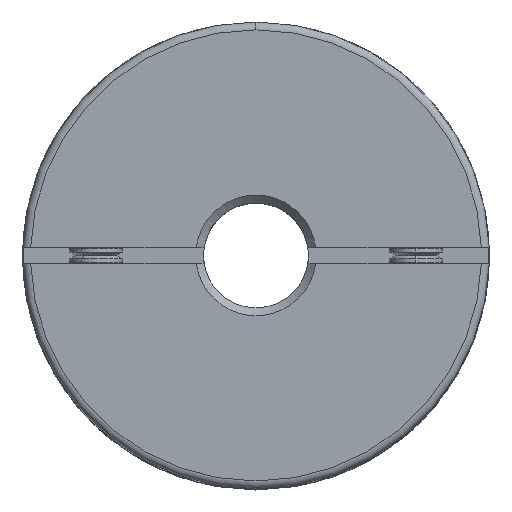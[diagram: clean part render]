
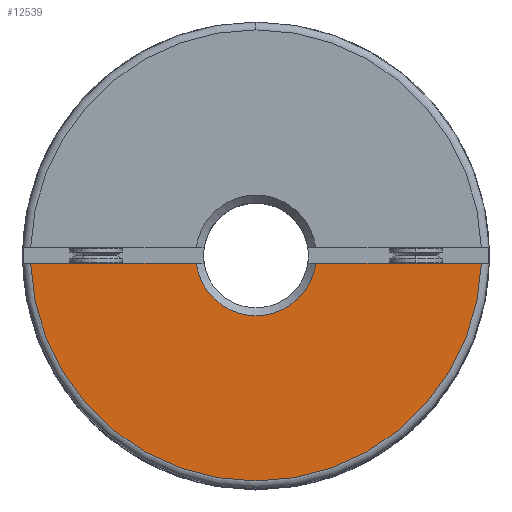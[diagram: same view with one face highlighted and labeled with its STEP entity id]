
A CAD part, top view. The second image highlights one B-rep face of the part: STEP entity #12539.
In plain terms, the highlighted planar face has unit normal (0, 0, 1).
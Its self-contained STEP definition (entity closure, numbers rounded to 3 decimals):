
#857 = VERTEX_POINT ( 'NONE', #6977 ) ;
#909 = VERTEX_POINT ( 'NONE', #7014 ) ;
#938 = VERTEX_POINT ( 'NONE', #7032 ) ;
#2840 = FACE_OUTER_BOUND ( 'NONE', #11069, .T. ) ;
#4866 = CARTESIAN_POINT ( 'NONE',  ( 0., 0., 12.7 ) ) ;
#4867 = DIRECTION ( 'NONE',  ( 0., 0., -1. ) ) ;
#4868 = DIRECTION ( 'NONE',  ( 1., 0., 0. ) ) ;
#5151 = DIRECTION ( 'NONE',  ( 1., 0., 0. ) ) ;
#5155 = CARTESIAN_POINT ( 'NONE',  ( -8.9, -0.3, 12.7 ) ) ;
#5756 = VERTEX_POINT ( 'NONE', #7238 ) ;
#6977 = CARTESIAN_POINT ( 'NONE',  ( 2.28, -0.3, 12.7 ) ) ;
#7014 = CARTESIAN_POINT ( 'NONE',  ( 8.595, -0.3, 12.7 ) ) ;
#7032 = CARTESIAN_POINT ( 'NONE',  ( -8.595, -0.3, 12.7 ) ) ;
#7238 = CARTESIAN_POINT ( 'NONE',  ( -2.28, -0.3, 12.7 ) ) ;
#8691 = CARTESIAN_POINT ( 'NONE',  ( 0., 0., 12.7 ) ) ;
#8692 = DIRECTION ( 'NONE',  ( 0., 0., 1. ) ) ;
#8693 = DIRECTION ( 'NONE',  ( 0., 1., 0. ) ) ;
#8764 = CARTESIAN_POINT ( 'NONE',  ( -8.9, -0.3, 12.7 ) ) ;
#8765 = DIRECTION ( 'NONE',  ( 1., 0., 0. ) ) ;
#8835 = AXIS2_PLACEMENT_3D ( 'NONE', #8691, #8692, #8693 ) ;
#9010 = AXIS2_PLACEMENT_3D ( 'NONE', #4866, #4867, #4868 ) ;
#10735 = CARTESIAN_POINT ( 'NONE',  ( 0., 0., 12.7 ) ) ;
#10742 = PLANE ( 'NONE',  #13700 ) ;
#10745 = DIRECTION ( 'NONE',  ( 0., 0., 1. ) ) ;
#10746 = DIRECTION ( 'NONE',  ( 0., 1., 0. ) ) ;
#11069 = EDGE_LOOP ( 'NONE', ( #15113, #15063, #15067, #15306 ) ) ;
#11926 = CIRCLE ( 'NONE', #8835, 8.6 ) ;
#11956 = LINE ( 'NONE', #8764, #11957 ) ;
#11957 = VECTOR ( 'NONE', #8765, 1000. ) ;
#11994 = CIRCLE ( 'NONE', #9010, 2.3 ) ;
#12095 = LINE ( 'NONE', #5155, #12097 ) ;
#12097 = VECTOR ( 'NONE', #5151, 1000. ) ;
#12539 = ADVANCED_FACE ( 'NONE', ( #2840 ), #10742, .T. ) ;
#13700 = AXIS2_PLACEMENT_3D ( 'NONE', #10735, #10745, #10746 ) ;
#14357 = EDGE_CURVE ( 'NONE', #938, #909, #11926, .T. ) ;
#14382 = EDGE_CURVE ( 'NONE', #938, #5756, #11956, .T. ) ;
#14413 = EDGE_CURVE ( 'NONE', #857, #5756, #11994, .T. ) ;
#14493 = EDGE_CURVE ( 'NONE', #857, #909, #12095, .T. ) ;
#15063 = ORIENTED_EDGE ( 'NONE', *, *, #14413, .T. ) ;
#15067 = ORIENTED_EDGE ( 'NONE', *, *, #14382, .F. ) ;
#15113 = ORIENTED_EDGE ( 'NONE', *, *, #14493, .F. ) ;
#15306 = ORIENTED_EDGE ( 'NONE', *, *, #14357, .T. ) ;
